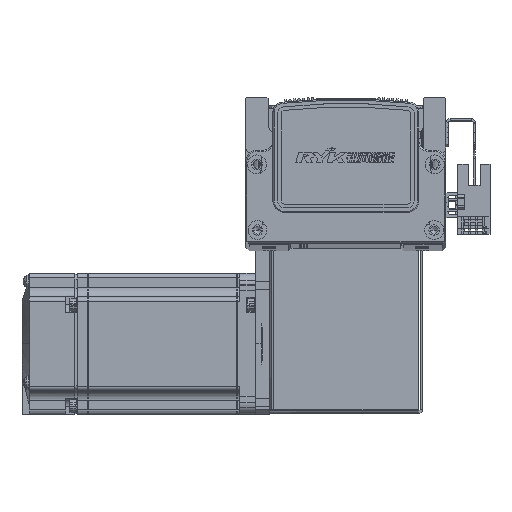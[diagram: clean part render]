
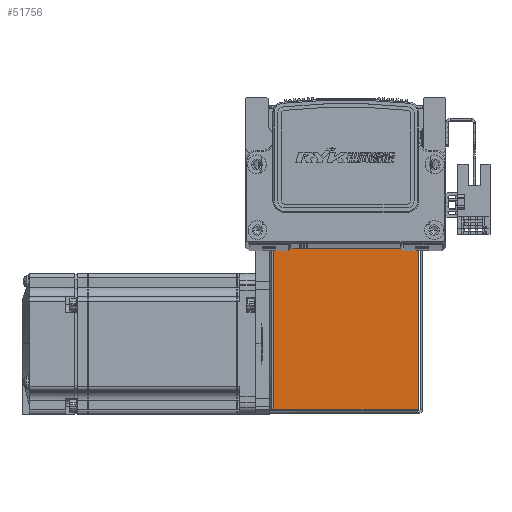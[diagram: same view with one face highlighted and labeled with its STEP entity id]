
A CAD part, top view. The second image highlights one B-rep face of the part: STEP entity #51756.
In plain terms, the highlighted planar face has unit normal (0, 0, 1) as drawn and (0, 0, -1) by its records, which use the part's own axes.
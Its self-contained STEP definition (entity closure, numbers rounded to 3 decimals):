
#8022 = EDGE_CURVE ( 'NONE', #22717, #22716, #45790, .T. ) ;
#8053 = EDGE_CURVE ( 'NONE', #21498, #22717, #45816, .T. ) ;
#8076 = EDGE_CURVE ( 'NONE', #21498, #21533, #45896, .T. ) ;
#8079 = EDGE_CURVE ( 'NONE', #22716, #21533, #45925, .T. ) ;
#16277 = EDGE_LOOP ( 'NONE', ( #77229, #77236, #77199, #77233 ) ) ;
#21039 = CARTESIAN_POINT ( 'NONE',  ( 0., 0., -35. ) ) ;
#21042 = PLANE ( 'NONE',  #24700 ) ;
#21072 = DIRECTION ( 'NONE',  ( 0., -1., 0. ) ) ;
#21086 = DIRECTION ( 'NONE',  ( 0., 0., 1. ) ) ;
#21498 = VERTEX_POINT ( 'NONE', #48826 ) ;
#21533 = VERTEX_POINT ( 'NONE', #48887 ) ;
#22716 = VERTEX_POINT ( 'NONE', #46911 ) ;
#22717 = VERTEX_POINT ( 'NONE', #46922 ) ;
#24700 = AXIS2_PLACEMENT_3D ( 'NONE', #21039, #21086, #21072 ) ;
#27534 = FACE_OUTER_BOUND ( 'NONE', #16277, .T. ) ;
#45790 = LINE ( 'NONE', #64492, #45796 ) ;
#45796 = VECTOR ( 'NONE', #64504, 1000. ) ;
#45816 = LINE ( 'NONE', #61446, #45857 ) ;
#45857 = VECTOR ( 'NONE', #61514, 1000. ) ;
#45880 = VECTOR ( 'NONE', #58784, 1000. ) ;
#45894 = VECTOR ( 'NONE', #58774, 1000. ) ;
#45896 = LINE ( 'NONE', #58781, #45880 ) ;
#45925 = LINE ( 'NONE', #58769, #45894 ) ;
#46911 = CARTESIAN_POINT ( 'NONE',  ( 30.763, 72.5, -35. ) ) ;
#46922 = CARTESIAN_POINT ( 'NONE',  ( -30.793, 72.5, -35. ) ) ;
#48826 = CARTESIAN_POINT ( 'NONE',  ( -30.793, 0.737, -35. ) ) ;
#48887 = CARTESIAN_POINT ( 'NONE',  ( 30.763, 0.737, -35. ) ) ;
#51756 = ADVANCED_FACE ( 'NONE', ( #27534 ), #21042, .F. ) ;
#58769 = CARTESIAN_POINT ( 'NONE',  ( 30.763, 72.5, -35. ) ) ;
#58774 = DIRECTION ( 'NONE',  ( 0., -1., 0. ) ) ;
#58781 = CARTESIAN_POINT ( 'NONE',  ( 32.5, 0.737, -35. ) ) ;
#58784 = DIRECTION ( 'NONE',  ( 1., 0., 0. ) ) ;
#61446 = CARTESIAN_POINT ( 'NONE',  ( -30.793, 0., -35. ) ) ;
#61514 = DIRECTION ( 'NONE',  ( 0., 1., 0. ) ) ;
#64492 = CARTESIAN_POINT ( 'NONE',  ( 0., 72.5, -35. ) ) ;
#64504 = DIRECTION ( 'NONE',  ( 1., 0., 0. ) ) ;
#77199 = ORIENTED_EDGE ( 'NONE', *, *, #8053, .T. ) ;
#77229 = ORIENTED_EDGE ( 'NONE', *, *, #8079, .T. ) ;
#77233 = ORIENTED_EDGE ( 'NONE', *, *, #8022, .T. ) ;
#77236 = ORIENTED_EDGE ( 'NONE', *, *, #8076, .F. ) ;
